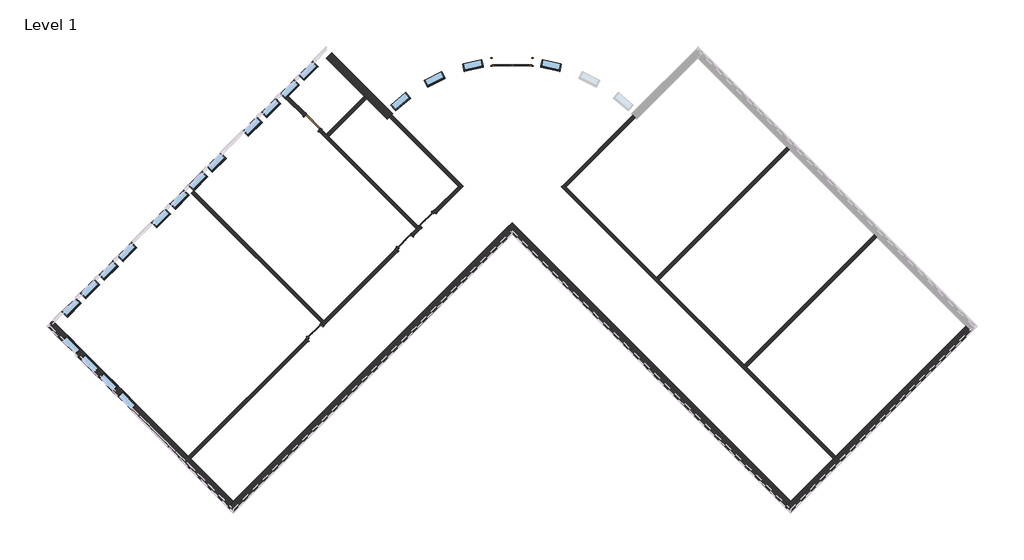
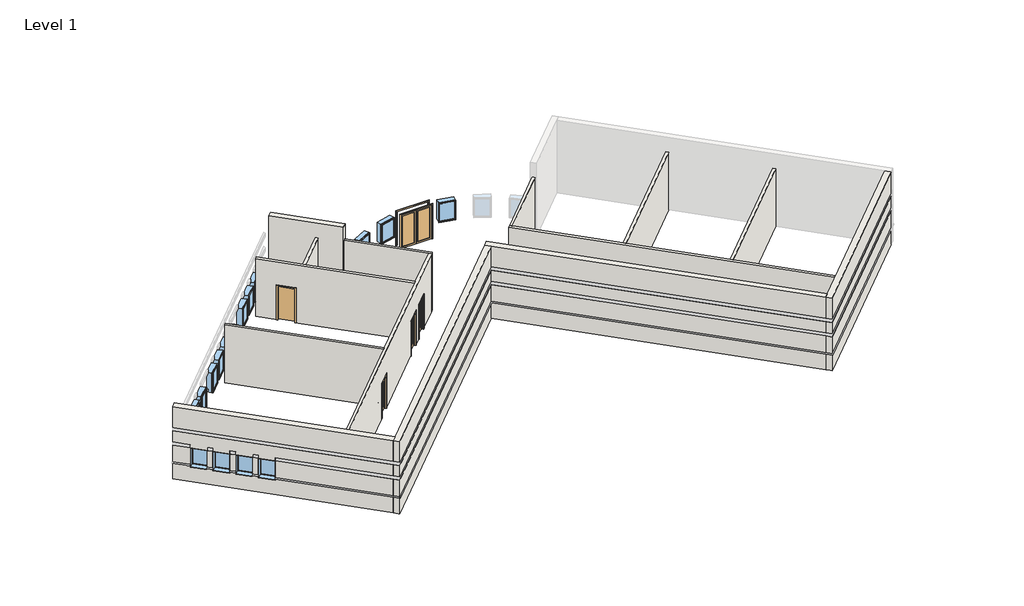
# One storey, part 1 of 2: 20 windows, 14 walls, 5 doors.
"""IFC4 building model written with IfcOpenShell, lengths in millimetres."""

from ifc_helpers import new_model, si_unit, point, frame, frame_2d, origin, origin_with_axes, place, context, project, spatial, polyline, circle_curve, trimmed, segment, composite_curve, outline, extrude, faceted_brep, transform, mapped, element, save
from ifc_brep_helpers import plane_surface, cylinder_surface, revolved_surface, advanced_brep
from components import door_9e30bd7d, door_47956b35, door_87dbb2e6, door_9d26d547, window_15c49d37, window_0e2fc6ce

model = new_model("IFC4")

# Units and contexts
model_context = context("Model", 3, world=origin())
ifc_project = project(units=[si_unit("LENGTHUNIT", "METRE", prefix="MILLI")], contexts=[model_context])

# Site, building, storey
site = spatial("IfcSite", under=ifc_project)
building = spatial("IfcBuilding", under=site)
storey = spatial("IfcBuildingStorey", under=building, Name="Level 1", Elevation=0.0)

# Doors
placement = place(None, origin())
door_shape = door_9e30bd7d(model_context)
element("IfcDoor", 1, ObjectType="Door-Double-Glass : 72\" x 84\"", at=placement, inside=storey, context=model_context, shape_type="MappedRepresentation", body=[
    mapped(door_shape, transform((-2868.7605421, 10907.9529704, 0.0), x_axis=(-0.9999999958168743, -9.146721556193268e-05, 0.0), y_axis=(9.146721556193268e-05, -0.9999999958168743, 0.0), z_axis=(0.0, 0.0, 1.0))),
])
door_2_shape = door_47956b35(model_context)
element("IfcDoor", 2, ObjectType="Door-Interior-Single-Full Glass-Wood : 36\" x 84\"", at=placement, inside=storey, context=model_context, shape_type="MappedRepresentation", body=[
    mapped(door_2_shape, transform((-12030.0168896, -1645.2399237, 0.0), x_axis=(0.7071067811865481, 0.7071067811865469, 0.0), y_axis=(-0.7071067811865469, 0.7071067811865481, 0.0), z_axis=(0.0, 0.0, 1.0))),
])
element("IfcDoor", 3, ObjectType="Door-Interior-Single-Full Glass-Wood : 36\" x 84\"", at=placement, inside=storey, context=model_context, shape_type="MappedRepresentation", body=[
    mapped(door_2_shape, transform((-7861.0507676, 2523.7261982, 0.0), x_axis=(0.7071067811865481, 0.7071067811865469, 0.0), y_axis=(-0.7071067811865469, 0.7071067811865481, 0.0), z_axis=(0.0, 0.0, 1.0))),
])
door_3_shape = door_87dbb2e6(model_context)
element("IfcDoor", 4, ObjectType="Door-Interior-Single-Full Glass-Wood : 36\" x 84\"", at=placement, inside=storey, context=model_context, shape_type="MappedRepresentation", body=[
    mapped(door_3_shape, transform((-6783.4200331, 3601.3569328, 0.0), x_axis=(-0.7071067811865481, -0.7071067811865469, 0.0), y_axis=(0.7071067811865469, -0.7071067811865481, 0.0), z_axis=(0.0, 0.0, 1.0))),
])
door_4_shape = door_9d26d547(model_context)
element("IfcDoor", 5, ObjectType="Door-Single-Panel : 36\" x 84\"", at=placement, inside=storey, context=model_context, shape_type="MappedRepresentation", body=[
    mapped(door_4_shape, transform((-12135.6526812, 8091.4849933, 0.0), x_axis=(0.7071067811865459, -0.7071067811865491, 0.0), y_axis=(0.7071067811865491, 0.7071067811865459, 0.0), z_axis=(0.0, 0.0, 1.0))),
])

# Walls
element("IfcWall", 6, ObjectType="Exterior - Split Face and CMU on Mtl. Stud", at=placement, inside=storey, context=model_context, shape_type="Brep", body=[
    faceted_brep([(18186.1821115, -1357.9895101, 4572.0), (10063.54045, -9480.6311716, 4572.0), (9814.3383427, -9729.833279, 4572.0), (10063.54045, -9979.0353863, 4572.0), (18435.3842189, -1607.1916175, 4572.0), (18186.1821115, -1357.9895101, 0.0), (12149.2049342, -7394.9666875, 0.0), (12039.1967967, -7504.974825, 0.0), (10063.54045, -9480.6311716, 0.0), (9814.3383427, -9729.833279, 0.0), (9814.3383427, -9729.833279, 1016.0), (9879.4451996, -9664.7264221, 1016.0), (9879.4451996, -9664.7264221, 1085.85), (9814.3383427, -9729.833279, 1085.85), (9814.3383427, -9729.833279, 2133.6), (9879.4451996, -9664.7264221, 2133.6), (9879.4451996, -9664.7264221, 2336.8), (9814.3383427, -9729.833279, 2336.8), (9814.3383427, -9729.833279, 3048.0), (9879.4451996, -9664.7264221, 3048.0), (9879.4451996, -9664.7264221, 3251.2), (9814.3383427, -9729.833279, 3251.2), (10063.54045, -9979.0353863, 3251.2), (18435.3842189, -1607.1916175, 3251.2), (10063.54045, -9979.0353863, 0.0), (18435.3842189, -1607.1916175, 0.0), (18435.3842189, -1607.1916175, 1016.0), (10063.54045, -9979.0353863, 1016.0), (10063.54045, -9979.0353863, 1085.85), (18435.3842189, -1607.1916175, 1085.85), (18435.3842189, -1607.1916175, 2133.6), (10063.54045, -9979.0353863, 2133.6), (10063.54045, -9979.0353863, 2336.8), (18435.3842189, -1607.1916175, 2336.8), (18435.3842189, -1607.1916175, 3048.0), (10063.54045, -9979.0353863, 3048.0), (18370.277362, -1542.0847606, 0.0), (9998.4335932, -9913.9285294, 0.0), (18370.277362, -1542.0847606, 3251.2), (18370.277362, -1542.0847606, 3048.0), (18370.277362, -1542.0847606, 2336.8), (18370.277362, -1542.0847606, 2133.6), (18370.277362, -1542.0847606, 1085.85), (18370.277362, -1542.0847606, 1016.0), (10063.54045, -9848.8216726, 1085.85), (10063.54045, -9848.8216726, 1016.0), (10063.54045, -9848.8216726, 2133.6), (10063.54045, -9848.8216726, 2336.8), (10063.54045, -9848.8216726, 3048.0), (10063.54045, -9848.8216726, 3251.2)], [[[0, 1, 2, 3, 4]], [[5, 6, 7, 8, 9, 10, 11, 12, 13, 14, 15, 16, 17, 18, 19, 20, 21, 2, 1, 0]], [[4, 3, 22, 23]], [[24, 25, 26, 27]], [[28, 29, 30, 31]], [[32, 33, 34, 35]], [[9, 8, 7, 6, 5, 36, 37]], [[5, 0, 4, 23, 38, 39, 34, 33, 40, 41, 30, 29, 42, 43, 26, 25, 36]], [[25, 24, 37, 36]], [[3, 2, 21, 22]], [[9, 37, 24, 27, 10]], [[13, 28, 31, 14]], [[17, 32, 35, 18]], [[12, 44, 42, 29, 28, 13]], [[43, 45, 11, 10, 27, 26]], [[44, 45, 43, 42]], [[45, 44, 12, 11]], [[41, 46, 15, 14, 31, 30]], [[16, 47, 40, 33, 32, 17]], [[47, 46, 41, 40]], [[46, 47, 16, 15]], [[39, 48, 19, 18, 35, 34]], [[20, 49, 38, 23, 22, 21]], [[49, 48, 39, 38]], [[48, 49, 20, 19]]]),
])
element("IfcWall", 7, ObjectType="Exterior - Split Face and CMU on Mtl. Stud", at=placement, inside=storey, context=model_context, shape_type="Brep", body=[
    faceted_brep([(10063.54045, -9480.6311716, 4572.0), (-2868.0283643, 3450.9376427, 4572.0), (-3117.2304717, 3201.7355354, 4572.0), (-2868.0283643, 2952.533428, 4572.0), (9814.3383427, -9729.833279, 4572.0), (10063.54045, -9480.6311716, 0.0), (-2868.0283643, 3450.9376427, 0.0), (-3117.2304717, 3201.7355354, 0.0), (-2868.0283643, 2952.533428, 0.0), (9814.3383427, -9729.833279, 0.0), (9814.3383427, -9729.833279, 1016.0), (-2868.0283643, 2952.533428, 1016.0), (-2933.1352212, 3017.6402849, 1016.0), (-2933.1352212, 3017.6402849, 1085.85), (-2868.0283643, 2952.533428, 1085.85), (9814.3383427, -9729.833279, 1085.85), (9814.3383427, -9729.833279, 2133.6), (-2868.0283643, 2952.533428, 2133.6), (-2933.1352212, 3017.6402849, 2133.6), (-2933.1352212, 3017.6402849, 2336.8), (-2868.0283643, 2952.533428, 2336.8), (9814.3383427, -9729.833279, 2336.8), (9814.3383427, -9729.833279, 3048.0), (-2868.0283643, 2952.533428, 3048.0), (-2933.1352212, 3017.6402849, 3048.0), (-2933.1352212, 3017.6402849, 3251.2), (-2868.0283643, 2952.533428, 3251.2), (9814.3383427, -9729.833279, 3251.2), (9879.4451996, -9664.7264221, 0.0), (-3052.1236148, 3266.8423923, 0.0), (9879.4451996, -9664.7264221, 3251.2), (9879.4451996, -9664.7264221, 3048.0), (9879.4451996, -9664.7264221, 2336.8), (9879.4451996, -9664.7264221, 2133.6), (9879.4451996, -9664.7264221, 1085.85), (9879.4451996, -9664.7264221, 1016.0), (-2868.0283643, 3082.7471418, 1085.85), (-2868.0283643, 3082.7471418, 1016.0), (-2868.0283643, 3082.7471418, 2133.6), (-2868.0283643, 3082.7471418, 2336.8), (-2868.0283643, 3082.7471418, 3048.0), (-2868.0283643, 3082.7471418, 3251.2)], [[[0, 1, 2, 3, 4]], [[5, 6, 1, 0]], [[4, 3, 2, 7, 8, 9, 10, 11, 12, 13, 14, 15, 16, 17, 18, 19, 20, 21, 22, 23, 24, 25, 26, 27]], [[6, 5, 28, 29]], [[5, 0, 4, 27, 30, 31, 22, 21, 32, 33, 16, 15, 34, 35, 10, 9, 28]], [[9, 8, 7, 29, 28]], [[1, 6, 29, 7, 2]], [[13, 36, 34, 15, 14]], [[35, 37, 12, 11, 10]], [[36, 37, 35, 34]], [[37, 36, 13, 12]], [[33, 38, 18, 17, 16]], [[19, 39, 32, 21, 20]], [[39, 38, 33, 32]], [[38, 39, 19, 18]], [[31, 40, 24, 23, 22]], [[25, 41, 30, 27, 26]], [[41, 40, 31, 30]], [[40, 41, 25, 24]]]),
])
element("IfcWall", 8, ObjectType="Exterior - Split Face and CMU on Mtl. Stud", at=placement, inside=storey, context=model_context, shape_type="Brep", body=[
    faceted_brep([(-3117.2304717, 3201.7355354, 4572.0), (-15799.5971786, -9480.6311716, 4572.0), (-16048.799286, -9729.833279, 4572.0), (-15799.5971786, -9979.0353863, 4572.0), (-2868.0283643, 2952.533428, 4572.0), (-3117.2304717, 3201.7355354, 0.0), (-15799.5971786, -9480.6311716, 0.0), (-16048.799286, -9729.833279, 0.0), (-16048.799286, -9729.833279, 1016.0), (-15983.6924291, -9664.7264221, 1016.0), (-15983.6924291, -9664.7264221, 1085.85), (-16048.799286, -9729.833279, 1085.85), (-16048.799286, -9729.833279, 2133.6), (-15983.6924291, -9664.7264221, 2133.6), (-15983.6924291, -9664.7264221, 2336.8), (-16048.799286, -9729.833279, 2336.8), (-16048.799286, -9729.833279, 3048.0), (-15983.6924291, -9664.7264221, 3048.0), (-15983.6924291, -9664.7264221, 3251.2), (-16048.799286, -9729.833279, 3251.2), (-15799.5971786, -9979.0353863, 3251.2), (-2868.0283643, 2952.533428, 3251.2), (-15799.5971786, -9979.0353863, 0.0), (-2868.0283643, 2952.533428, 0.0), (-2868.0283643, 2952.533428, 1016.0), (-15799.5971786, -9979.0353863, 1016.0), (-15799.5971786, -9979.0353863, 1085.85), (-2868.0283643, 2952.533428, 1085.85), (-2868.0283643, 2952.533428, 2133.6), (-15799.5971786, -9979.0353863, 2133.6), (-15799.5971786, -9979.0353863, 2336.8), (-2868.0283643, 2952.533428, 2336.8), (-2868.0283643, 2952.533428, 3048.0), (-15799.5971786, -9979.0353863, 3048.0), (-2933.1352212, 3017.6402849, 0.0), (-15864.7040355, -9913.9285294, 0.0), (-2933.1352212, 3017.6402849, 3251.2), (-2933.1352212, 3017.6402849, 3048.0), (-2933.1352212, 3017.6402849, 2336.8), (-2933.1352212, 3017.6402849, 2133.6), (-2933.1352212, 3017.6402849, 1085.85), (-2933.1352212, 3017.6402849, 1016.0), (-15799.5971786, -9848.8216726, 1085.85), (-15799.5971786, -9848.8216726, 1016.0), (-15799.5971786, -9848.8216726, 2133.6), (-15799.5971786, -9848.8216726, 2336.8), (-15799.5971786, -9848.8216726, 3048.0), (-15799.5971786, -9848.8216726, 3251.2)], [[[0, 1, 2, 3, 4]], [[5, 6, 7, 8, 9, 10, 11, 12, 13, 14, 15, 16, 17, 18, 19, 2, 1, 0]], [[4, 3, 20, 21]], [[22, 23, 24, 25]], [[26, 27, 28, 29]], [[30, 31, 32, 33]], [[7, 6, 5, 34, 35]], [[5, 0, 4, 21, 36, 37, 32, 31, 38, 39, 28, 27, 40, 41, 24, 23, 34]], [[23, 22, 35, 34]], [[3, 2, 19, 20]], [[7, 35, 22, 25, 8]], [[11, 26, 29, 12]], [[15, 30, 33, 16]], [[10, 42, 40, 27, 26, 11]], [[41, 43, 9, 8, 25, 24]], [[42, 43, 41, 40]], [[43, 42, 10, 9]], [[39, 44, 13, 12, 29, 28]], [[14, 45, 38, 31, 30, 15]], [[45, 44, 39, 38]], [[44, 45, 14, 13]], [[37, 46, 17, 16, 33, 32]], [[18, 47, 36, 21, 20, 19]], [[47, 46, 37, 36]], [[46, 47, 18, 17]]]),
])
element("IfcWall", 9, ObjectType="Exterior - Split Face and CMU on Mtl. Stud", at=placement, inside=storey, context=model_context, shape_type="Brep", body=[
    faceted_brep([(-15799.5971786, -9480.6311716, 4572.0), (-23922.2388402, -1357.9895101, 4572.0), (-24171.4409475, -1108.7874027, 4572.0), (-24420.6430549, -1357.9895101, 4572.0), (-16048.799286, -9729.833279, 4572.0), (-15799.5971786, -9480.6311716, 0.0), (-17775.2535253, -7504.974825, 0.0), (-17885.2616628, -7394.9666875, 0.0), (-23922.2388402, -1357.9895101, 0.0), (-24171.4409475, -1108.7874027, 0.0), (-24171.4409475, -1108.7874027, 1016.0), (-24106.3340906, -1173.8942596, 1016.0), (-24106.3340906, -1173.8942596, 1085.85), (-24171.4409475, -1108.7874027, 1085.85), (-24171.4409475, -1108.7874027, 2133.6), (-24106.3340906, -1173.8942596, 2133.6), (-24106.3340906, -1173.8942596, 2336.8), (-24171.4409475, -1108.7874027, 2336.8), (-24171.4409475, -1108.7874027, 3048.0), (-24106.3340906, -1173.8942596, 3048.0), (-24106.3340906, -1173.8942596, 3251.2), (-24171.4409475, -1108.7874027, 3251.2), (-20921.7107637, -4358.5175865, 2133.6), (-20921.7107637, -4358.5175865, 914.4), (-20275.132323, -5005.0960273, 914.4), (-20275.132323, -5005.0960273, 2133.6), (-21783.8153513, -3496.4129989, 2133.6), (-21783.8153513, -3496.4129989, 914.4), (-21137.2369106, -4142.9914396, 914.4), (-21137.2369106, -4142.9914396, 2133.6), (-22645.9199389, -2634.3084113, 2133.6), (-22645.9199389, -2634.3084113, 914.4), (-21999.3414982, -3280.886852, 914.4), (-21999.3414982, -3280.886852, 2133.6), (-23508.0245266, -1772.2038237, 2133.6), (-23508.0245266, -1772.2038237, 914.4), (-22861.4460859, -2418.7822644, 914.4), (-22861.4460859, -2418.7822644, 2133.6), (-24420.6430549, -1357.9895101, 3251.2), (-16048.799286, -9729.833279, 3251.2), (-24420.6430549, -1357.9895101, 0.0), (-16048.799286, -9729.833279, 0.0), (-16048.799286, -9729.833279, 1016.0), (-20524.3344303, -5254.2981346, 1016.0), (-20524.3344303, -5254.2981346, 914.4), (-21170.9128711, -4607.7196939, 914.4), (-21170.9128711, -4607.7196939, 1016.0), (-21386.439018, -4392.193547, 1016.0), (-21386.439018, -4392.193547, 914.4), (-22033.0174587, -3745.6151063, 914.4), (-22033.0174587, -3745.6151063, 1016.0), (-22248.5436056, -3530.0889594, 1016.0), (-22248.5436056, -3530.0889594, 914.4), (-22895.1220463, -2883.5105187, 914.4), (-22895.1220463, -2883.5105187, 1016.0), (-23110.6481932, -2667.9843718, 1016.0), (-23110.6481932, -2667.9843718, 914.4), (-23757.2266339, -2021.405931, 914.4), (-23757.2266339, -2021.405931, 1016.0), (-24420.6430549, -1357.9895101, 1016.0), (-21170.9128711, -4607.7196939, 2133.6), (-20524.3344303, -5254.2981346, 2133.6), (-20524.3344303, -5254.2981346, 2336.8), (-16048.799286, -9729.833279, 2336.8), (-16048.799286, -9729.833279, 3048.0), (-24420.6430549, -1357.9895101, 3048.0), (-24420.6430549, -1357.9895101, 2336.8), (-23757.2266339, -2021.405931, 2336.8), (-23757.2266339, -2021.405931, 2133.6), (-23110.6481932, -2667.9843718, 2133.6), (-23110.6481932, -2667.9843718, 2336.8), (-22895.1220463, -2883.5105187, 2336.8), (-22895.1220463, -2883.5105187, 2133.6), (-22248.5436056, -3530.0889594, 2133.6), (-22248.5436056, -3530.0889594, 2336.8), (-22033.0174587, -3745.6151063, 2336.8), (-22033.0174587, -3745.6151063, 2133.6), (-21386.439018, -4392.193547, 2133.6), (-21386.439018, -4392.193547, 2336.8), (-21170.9128711, -4607.7196939, 2336.8), (-20524.3344303, -5254.2981346, 1085.85), (-16048.799286, -9729.833279, 1085.85), (-16048.799286, -9729.833279, 2133.6), (-21170.9128711, -4607.7196939, 1085.85), (-21386.439018, -4392.193547, 1085.85), (-22033.0174587, -3745.6151063, 1085.85), (-22248.5436056, -3530.0889594, 1085.85), (-22895.1220463, -2883.5105187, 1085.85), (-23110.6481932, -2667.9843718, 1085.85), (-23757.2266339, -2021.405931, 1085.85), (-24420.6430549, -1357.9895101, 2133.6), (-24420.6430549, -1357.9895101, 1085.85), (-15983.6924291, -9664.7264221, 0.0), (-24355.536198, -1292.8826532, 0.0), (-15983.6924291, -9664.7264221, 3251.2), (-15983.6924291, -9664.7264221, 3048.0), (-15983.6924291, -9664.7264221, 2336.8), (-15983.6924291, -9664.7264221, 2133.6), (-15983.6924291, -9664.7264221, 1085.85), (-15983.6924291, -9664.7264221, 1016.0), (-21105.8060142, -4542.612837, 2133.6), (-21105.8060142, -4542.612837, 1085.85), (-21105.8060142, -4542.612837, 1016.0), (-20459.2275735, -5189.1912777, 1016.0), (-20459.2275735, -5189.1912777, 1085.85), (-20459.2275735, -5189.1912777, 2133.6), (-21967.9106018, -3680.5082494, 2133.6), (-21967.9106018, -3680.5082494, 1085.85), (-21967.9106018, -3680.5082494, 1016.0), (-21321.3321611, -4327.0866901, 1016.0), (-21321.3321611, -4327.0866901, 1085.85), (-21321.3321611, -4327.0866901, 2133.6), (-22830.0151894, -2818.4036618, 2133.6), (-22830.0151894, -2818.4036618, 1085.85), (-22830.0151894, -2818.4036618, 1016.0), (-22183.4367487, -3464.9821025, 1016.0), (-22183.4367487, -3464.9821025, 1085.85), (-22183.4367487, -3464.9821025, 2133.6), (-23692.119777, -1956.2990742, 2133.6), (-23692.119777, -1956.2990742, 1085.85), (-23692.119777, -1956.2990742, 1016.0), (-23045.5413363, -2602.8775149, 1016.0), (-23045.5413363, -2602.8775149, 1085.85), (-23045.5413363, -2602.8775149, 2133.6), (-24290.4293411, -1357.9895101, 1085.85), (-24290.4293411, -1357.9895101, 1016.0), (-20459.2275735, -5189.1912777, 2133.6), (-20459.2275735, -5189.1912777, 2336.8), (-21105.8060142, -4542.612837, 2133.6), (-21105.8060142, -4542.612837, 2336.8), (-21321.3321611, -4327.0866901, 2336.8), (-21321.3321611, -4327.0866901, 2133.6), (-21967.9106018, -3680.5082494, 2133.6), (-21967.9106018, -3680.5082494, 2336.8), (-22183.4367487, -3464.9821025, 2336.8), (-22183.4367487, -3464.9821025, 2133.6), (-22830.0151894, -2818.4036618, 2133.6), (-22830.0151894, -2818.4036618, 2336.8), (-23045.5413363, -2602.8775149, 2336.8), (-23045.5413363, -2602.8775149, 2133.6), (-23692.119777, -1956.2990742, 2133.6), (-23692.119777, -1956.2990742, 2336.8), (-24290.4293411, -1357.9895101, 2133.6), (-24290.4293411, -1357.9895101, 2336.8), (-24290.4293411, -1357.9895101, 3048.0), (-24290.4293411, -1357.9895101, 3251.2)], [[[0, 1, 2, 3, 4]], [[5, 6, 7, 8, 9, 10, 11, 12, 13, 14, 15, 16, 17, 18, 19, 20, 21, 2, 1, 0], [22, 23, 24, 25], [26, 27, 28, 29], [30, 31, 32, 33], [34, 35, 36, 37]], [[4, 3, 38, 39]], [[40, 41, 42, 43, 44, 45, 46, 47, 48, 49, 50, 51, 52, 53, 54, 55, 56, 57, 58, 59]], [[60, 61, 62, 63, 64, 65, 66, 67, 68, 69, 70, 71, 72, 73, 74, 75, 76, 77, 78, 79]], [[61, 80, 81, 82]], [[83, 60, 77, 84]], [[85, 76, 73, 86]], [[87, 72, 69, 88]], [[89, 68, 90, 91]], [[9, 8, 7, 6, 5, 92, 93]], [[5, 0, 4, 39, 94, 95, 64, 63, 96, 97, 82, 81, 98, 99, 42, 41, 92]], [[41, 40, 93, 92]], [[3, 2, 21, 38]], [[9, 93, 40, 59, 10]], [[13, 91, 90, 14]], [[17, 66, 65, 18]], [[23, 22, 100, 60, 83, 101, 102, 46, 45]], [[24, 23, 45, 44]], [[25, 24, 44, 43, 103, 104, 80, 61, 105]], [[22, 25, 105, 61, 60, 100]], [[27, 26, 106, 76, 85, 107, 108, 50, 49]], [[28, 27, 49, 48]], [[29, 28, 48, 47, 109, 110, 84, 77, 111]], [[26, 29, 111, 77, 76, 106]], [[31, 30, 112, 72, 87, 113, 114, 54, 53]], [[32, 31, 53, 52]], [[33, 32, 52, 51, 115, 116, 86, 73, 117]], [[30, 33, 117, 73, 72, 112]], [[35, 34, 118, 68, 89, 119, 120, 58, 57]], [[36, 35, 57, 56]], [[37, 36, 56, 55, 121, 122, 88, 69, 123]], [[34, 37, 123, 69, 68, 118]], [[104, 98, 81, 80]], [[99, 103, 43, 42]], [[98, 104, 103, 99]], [[110, 101, 83, 84]], [[102, 109, 47, 46]], [[101, 110, 109, 102]], [[116, 107, 85, 86]], [[108, 115, 51, 50]], [[107, 116, 115, 108]], [[122, 113, 87, 88]], [[114, 121, 55, 54]], [[113, 122, 121, 114]], [[124, 119, 89, 91, 13, 12]], [[120, 125, 11, 10, 59, 58]], [[119, 124, 125, 120]], [[125, 124, 12, 11]], [[126, 61, 82, 97]], [[62, 127, 96, 63]], [[61, 126, 127, 62]], [[127, 126, 97, 96]], [[128, 60, 79, 129]], [[130, 78, 77, 131]], [[60, 128, 131, 77]], [[128, 129, 130, 131]], [[129, 79, 78, 130]], [[132, 76, 75, 133]], [[134, 74, 73, 135]], [[76, 132, 135, 73]], [[132, 133, 134, 135]], [[133, 75, 74, 134]], [[136, 72, 71, 137]], [[138, 70, 69, 139]], [[72, 136, 139, 69]], [[136, 137, 138, 139]], [[137, 71, 70, 138]], [[140, 68, 67, 141]], [[68, 140, 142, 15, 14, 90]], [[140, 141, 143, 142]], [[141, 67, 66, 17, 16, 143]], [[142, 143, 16, 15]], [[95, 144, 19, 18, 65, 64]], [[20, 145, 94, 39, 38, 21]], [[145, 144, 95, 94]], [[144, 145, 20, 19]]]),
])
element("IfcWall", 10, ObjectType="Exterior - Split Face and CMU on Mtl. Stud", at=placement, inside=storey, context=model_context, shape_type="AdvancedBrep", body=[
    advanced_brep(
    [(-11489.0742405, 11075.1750895, 4572.0), (-8658.0122729, 8244.1131219, 4572.0), (-8413.2817722, 8497.7868359, 4572.0), (-8662.486224, 8746.9912878, 4572.0), (-11239.8721332, 11324.3771969, 4572.0), (-11489.0742405, 11075.1750895, 0.0), (-9728.9440408, 9315.0448898, 0.0), (-9618.9359033, 9205.0367523, 0.0), (-8658.0122729, 8244.1131219, 0.0), (-8413.2817722, 8497.7868359, 0.0), (-8662.486224, 8746.9912878, 0.0), (-11239.8721332, 11324.3771969, 0.0), (-11239.8721332, 11324.3771969, 1016.0), (-8662.486224, 8746.9912878, 1016.0), (-8597.3787742, 8681.8838379, 1016.0), (-8597.3787742, 8681.8838379, 1085.85), (-8662.486224, 8746.9912878, 1085.85), (-11239.8721332, 11324.3771969, 1085.85), (-11239.8721332, 11324.3771969, 2133.6), (-8662.486224, 8746.9912878, 2133.6), (-8597.3787742, 8681.8838379, 2133.6), (-8597.3787742, 8681.8838379, 2336.8), (-8662.486224, 8746.9912878, 2336.8), (-11239.8721332, 11324.3771969, 2336.8), (-11239.8721332, 11324.3771969, 3048.0), (-8662.486224, 8746.9912878, 3048.0), (-8597.3787742, 8681.8838379, 3048.0), (-8597.3787742, 8681.8838379, 3251.2), (-8662.486224, 8746.9912878, 3251.2), (-11239.8721332, 11324.3771969, 3251.2), (-11304.9789901, 11259.27034, 0.0), (-8478.2967797, 8432.5881297, 0.0), (-11304.9789901, 11259.27034, 3251.2), (-11304.9789901, 11259.27034, 3048.0), (-11304.9789901, 11259.27034, 2336.8), (-11304.9789901, 11259.27034, 2133.6), (-11304.9789901, 11259.27034, 1085.85), (-11304.9789901, 11259.27034, 1016.0), (-8662.3967205, 8616.6880705, 1085.85), (-8662.3967205, 8616.6880705, 1016.0), (-8662.3967205, 8616.6880705, 2336.8), (-8662.3967205, 8616.6880705, 2133.6), (-8662.3967205, 8616.6880705, 3251.2), (-8662.3967205, 8616.6880705, 3048.0)],
    [
        (0, 1),
        (1, 2, circle_curve(frame((-2868.0283643, 2903.1420194, 4572.0), z_axis=(0.0, 0.0, -1.0), x_axis=(1.0, 0.0, 0.0)), 7877.175)),
        (2, 3),
        (3, 4),
        (4, 0),
        (5, 6),
        (6, 7),
        (7, 8),
        (8, 1),
        (0, 5),
        (2, 9),
        (9, 10),
        (10, 11),
        (11, 12),
        (12, 13),
        (13, 14),
        (14, 15),
        (15, 16),
        (16, 17),
        (17, 18),
        (18, 19),
        (19, 20),
        (20, 21),
        (21, 22),
        (22, 23),
        (23, 24),
        (24, 25),
        (25, 26),
        (26, 27),
        (27, 28),
        (28, 29),
        (29, 4),
        (5, 30),
        (30, 31),
        (31, 8, circle_curve(frame((-2868.0283643, 2903.1420194, 0.0), z_axis=(0.0, 0.0, 1.0), x_axis=(1.0, 0.0, 0.0)), 7877.175)),
        (29, 32),
        (32, 33),
        (33, 24),
        (23, 34),
        (34, 35),
        (35, 18),
        (17, 36),
        (36, 37),
        (37, 12),
        (11, 30),
        (9, 31, circle_curve(frame((-2868.0283643, 2903.1420194, 0.0), z_axis=(0.0, 0.0, 1.0), x_axis=(1.0, 0.0, 0.0)), 7877.175)),
        (38, 39),
        (39, 37),
        (36, 38),
        (15, 38, circle_curve(frame((-2868.0283643, 2903.1420194, 1085.85), z_axis=(0.0, 0.0, 1.0), x_axis=(-0.7040995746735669, 0.7101012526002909, 0.0)), 8137.525)),
        (39, 14, circle_curve(frame((-2868.0283643, 2903.1420194, 1016.0), z_axis=(0.0, 0.0, -1.0), x_axis=(-0.7040995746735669, 0.7101012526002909, 0.0)), 8137.525)),
        (40, 41),
        (41, 35),
        (34, 40),
        (41, 20, circle_curve(frame((-2868.0283643, 2903.1420194, 2133.6), z_axis=(0.0, 0.0, -1.0), x_axis=(-0.7120553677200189, 0.7021233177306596, 0.0)), 8137.525)),
        (40, 21, circle_curve(frame((-2868.0283643, 2903.1420194, 2336.8), z_axis=(0.0, 0.0, -1.0), x_axis=(-0.7120553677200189, 0.7021233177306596, 0.0)), 8137.525)),
        (42, 43),
        (43, 33),
        (32, 42),
        (43, 26, circle_curve(frame((-2868.0283643, 2903.1420194, 3048.0), z_axis=(0.0, 0.0, -1.0), x_axis=(-0.7120553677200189, 0.7021233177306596, 0.0)), 8137.525)),
        (42, 27, circle_curve(frame((-2868.0283643, 2903.1420194, 3251.2), z_axis=(0.0, 0.0, -1.0), x_axis=(-0.7120553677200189, 0.7021233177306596, 0.0)), 8137.525)),
    ],
    [
        plane_surface(frame((-8786.2632499, 8372.3640989, 4572.0), z_axis=(0.0, 0.0, 1.0), x_axis=(0.7071067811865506, 0.7071067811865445, 0.0))),
        plane_surface(frame((-11738.2763479, 11324.3771969, 0.0), z_axis=(-0.7071067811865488, -0.7071067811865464, 0.0), x_axis=(0.7071067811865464, -0.7071067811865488, 0.0))),
        plane_surface(frame((-11489.0742405, 11573.5793042, 0.0), z_axis=(0.7071067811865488, 0.7071067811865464, 0.0), x_axis=(-0.7071067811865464, 0.7071067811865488, 0.0))),
        plane_surface(frame((-11613.6752942, 11199.7761432, 0.0), z_axis=(0.0, 0.0, -1.0000000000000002), x_axis=(0.7071067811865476, 0.7071067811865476, 0.0))),
        plane_surface(frame((-24171.4409475, -1607.1916175, 0.0), z_axis=(-0.7071067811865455, 0.7071067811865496, 0.0), x_axis=(0.7071067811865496, 0.7071067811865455, 0.0))),
        plane_surface(frame((0.0, 0.0, 0.0), z_axis=(0.0, 0.0, -1.0), x_axis=(1.0, 0.0, 0.0))),
        revolved_surface(polyline([(5009.146635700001, 2903.1420194, 0.0), (5009.146635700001, 2903.1420194, 4572.0)]), (-2868.0283643, 2903.1420194, 0.0), (0.0, 0.0, -1.0)),
        plane_surface(frame((-11489.0742405, 11443.3655905, 1016.0), z_axis=(0.7071067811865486, 0.7071067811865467, 0.0), x_axis=(0.7071067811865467, -0.7071067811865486, 0.0))),
        plane_surface(frame((-2868.0283643, 2903.1420194, 1085.85), z_axis=(0.0, 0.0, -1.0), x_axis=(-0.7040995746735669, 0.7101012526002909, 0.0))),
        plane_surface(frame((-2868.0283643, 2903.1420194, 1016.0), z_axis=(0.0, 0.0, 1.0), x_axis=(-0.7040995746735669, 0.7101012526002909, 0.0))),
        cylinder_surface(frame((-2868.0283643, 2903.1420194, 1016.0), z_axis=(0.0, 0.0, -1.0), x_axis=(-0.7040995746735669, 0.7101012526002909, 0.0)), 8137.525),
        plane_surface(frame((-11489.0742405, 11443.3655905, 2133.6), z_axis=(0.7071067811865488, 0.7071067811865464, 0.0), x_axis=(0.7071067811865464, -0.7071067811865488, 0.0))),
        plane_surface(frame((-2868.0283643, 2903.1420194, 2133.6), z_axis=(0.0, 0.0, 1.0), x_axis=(-0.7120553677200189, 0.7021233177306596, 0.0))),
        cylinder_surface(frame((-2868.0283643, 2903.1420194, 2133.6), z_axis=(0.0, 0.0, -1.0), x_axis=(-0.7120553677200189, 0.7021233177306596, 0.0)), 8137.525),
        plane_surface(frame((-2868.0283643, 2903.1420194, 2336.8), z_axis=(0.0, 0.0, -1.0), x_axis=(-0.7120553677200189, 0.7021233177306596, 0.0))),
        plane_surface(frame((-11489.0742405, 11443.3655905, 3048.0), z_axis=(0.7071067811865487, 0.7071067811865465, 0.0), x_axis=(0.7071067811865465, -0.7071067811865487, 0.0))),
        plane_surface(frame((-2868.0283643, 2903.1420194, 3048.0), z_axis=(0.0, 0.0, 1.0), x_axis=(-0.7120553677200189, 0.7021233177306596, 0.0))),
        cylinder_surface(frame((-2868.0283643, 2903.1420194, 3048.0), z_axis=(0.0, 0.0, -1.0), x_axis=(-0.7120553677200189, 0.7021233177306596, 0.0)), 8137.525),
        plane_surface(frame((-2868.0283643, 2903.1420194, 3251.2), z_axis=(0.0, 0.0, -1.0), x_axis=(-0.7120553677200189, 0.7021233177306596, 0.0))),
    ],
    [
        (0, [[1, 2, 3, 4, 5]]),
        (1, [[6, 7, 8, 9, -1, 10]]),
        (2, [[-4, -3, 11, 12, 13, 14, 15, 16, 17, 18, 19, 20, 21, 22, 23, 24, 25, 26, 27, 28, 29, 30, 31, 32]]),
        (3, [[-8, -7, -6, 33, 34, 35]]),
        (4, [[-10, -5, -32, 36, 37, 38, -26, 39, 40, 41, -20, 42, 43, 44, -14, 45, -33]]),
        (5, [[-13, -12, 46, -34, -45]]),
        (6, [[-9, -35, -46, -11, -2]]),
        (7, [[47, 48, -43, 49]]),
        (8, [[50, -49, -42, -19, -18]]),
        (9, [[-48, 51, -16, -15, -44]]),
        (10, [[-47, -50, -17, -51]]),
        (11, [[52, 53, -40, 54]]),
        (12, [[-53, 55, -22, -21, -41]]),
        (13, [[-52, 56, -23, -55]]),
        (14, [[-56, -54, -39, -25, -24]]),
        (15, [[57, 58, -37, 59]]),
        (16, [[-58, 60, -28, -27, -38]]),
        (17, [[-57, 61, -29, -60]]),
        (18, [[-61, -59, -36, -31, -30]]),
    ],
),
])
element("IfcWall", 11, ObjectType="Interior - 6 1/8\" Partition (2-hr)", at=placement, inside=storey, context=model_context, shape_type="Brep", body=[
    faceted_brep([(-17775.2535253, -7504.974825, 0.0), (-17885.2616628, -7394.9666875, 0.0), (-12424.0256269, -1933.7306516, 0.0), (-12314.0174894, -2043.7387891, 0.0), (-5348.5885532, 5141.7064221, 0.0), (-5238.5804157, 5031.6982846, 0.0), (-6384.9211677, 3885.3575326, 0.0), (-6494.9293052, 3995.3656701, 0.0), (-11631.5180242, -1361.2393239, 0.0), (-11741.5261617, -1251.2311864, 0.0), (-11706.7276692, -1216.4326939, 0.0), (-11596.7195317, -1106.4245564, 0.0), (-8255.0595049, 2235.2354703, 0.0), (-8145.0513674, 2125.2273329, 0.0), (-7462.5519022, 2807.7267981, 0.0), (-7572.5600397, 2917.7349356, 0.0), (-7322.2354004, 3168.0595749, 0.0), (-7212.2272629, 3278.0677124, 0.0), (-7177.4287704, 3312.8662049, 0.0), (-7067.4206329, 3202.8580674, 0.0), (-17775.2535253, -7504.974825, 3657.6), (-5238.5804157, 5031.6982846, 3657.6), (-5348.5885532, 5141.7064221, 3657.6), (-7212.2272629, 3278.0677124, 3657.6), (-7322.2354004, 3168.0595749, 3657.6), (-11596.7195317, -1106.4245564, 3657.6), (-11706.7276692, -1216.4326939, 3657.6), (-17885.2616628, -7394.9666875, 3657.6), (-12314.0174894, -2043.7387891, 2159.0), (-11631.5180242, -1361.2393239, 2159.0), (-8145.0513674, 2125.2273329, 2159.0), (-7462.5519022, 2807.7267981, 2159.0), (-7067.4206329, 3202.8580674, 2159.0), (-6384.9211677, 3885.3575326, 2159.0), (-6494.9293052, 3995.3656701, 2159.0), (-7177.4287704, 3312.8662049, 2159.0), (-7572.5600397, 2917.7349356, 2159.0), (-8255.0595049, 2235.2354703, 2159.0), (-11741.5261617, -1251.2311864, 2159.0), (-12424.0256269, -1933.7306516, 2159.0)], [[[0, 1, 2, 3]], [[4, 5, 6, 7]], [[8, 9, 10, 11, 12, 13]], [[14, 15, 16, 17, 18, 19]], [[20, 21, 22, 23, 24, 25, 26, 27]], [[21, 20, 0, 3, 28, 29, 8, 13, 30, 31, 14, 19, 32, 33, 6, 5]], [[27, 26, 25, 24, 23, 22, 4, 7, 34, 35, 18, 17, 16, 15, 36, 37, 12, 11, 10, 9, 38, 39, 2, 1]], [[0, 20, 27, 1]], [[21, 5, 4, 22]], [[29, 38, 9, 8]], [[38, 29, 28, 39]], [[39, 28, 3, 2]], [[31, 36, 15, 14]], [[36, 31, 30, 37]], [[37, 30, 13, 12]], [[35, 32, 19, 18]], [[32, 35, 34, 33]], [[33, 34, 7, 6]]]),
])
element("IfcWall", 12, ObjectType="Interior - 6 1/8\" Partition (2-hr)", at=placement, inside=storey, context=model_context, shape_type="Brep", body=[
    faceted_brep([(-7322.2354004, 3168.0595749, 0.0), (-11867.3675296, 7713.1917042, 0.0), (-11757.3593921, 7823.1998417, 0.0), (-11489.0742405, 7554.9146901, 0.0), (-11379.066103, 7444.9065526, 0.0), (-7212.2272629, 3278.0677124, 0.0), (-12513.9459703, 8359.7701449, 0.0), (-13359.2125777, 9205.0367523, 0.0), (-13249.2044403, 9315.0448898, 0.0), (-12403.9378329, 8469.7782824, 0.0), (-7212.2272629, 3278.0677124, 3657.6), (-11379.066103, 7444.9065526, 3657.6), (-11489.0742405, 7554.9146901, 3657.6), (-13249.2044403, 9315.0448898, 3657.6), (-13359.2125777, 9205.0367523, 3657.6), (-7322.2354004, 3168.0595749, 3657.6), (-11757.3593921, 7823.1998417, 2133.6), (-12403.9378329, 8469.7782824, 2133.6), (-11867.3675296, 7713.1917042, 2133.6), (-12513.9459703, 8359.7701449, 2133.6)], [[[0, 1, 2, 3, 4, 5]], [[6, 7, 8, 9]], [[10, 11, 12, 13, 14, 15]], [[5, 4, 3, 2, 16, 17, 9, 8, 13, 12, 11, 10]], [[18, 1, 0, 15, 14, 7, 6, 19]], [[13, 8, 7, 14]], [[5, 10, 15, 0]], [[16, 2, 1, 18]], [[17, 16, 18, 19]], [[9, 17, 19, 6]]]),
])
element("IfcWall", 13, ObjectType="Interior - 6 1/8\" Partition (2-hr)", at=placement, inside=storey, context=model_context, shape_type="AdvancedBrep", body=[
    advanced_brep(
    [(-5128.5722782, 5141.7064221, 0.0), (-8449.0111375, 8462.1452813, 0.0), (-8449.0111375, 8462.1452813, 3657.6), (-5128.5722782, 5141.7064221, 3657.6), (-5238.5804157, 5031.6982846, 0.0), (-5238.5804157, 5031.6982846, 3657.6), (-5348.5885532, 5141.7064221, 3657.6), (-8557.7157352, 8350.8336041, 3657.6), (-8557.7157352, 8350.8336041, 0.0), (-5348.5885532, 5141.7064221, 0.0)],
    [
        (0, 1),
        (1, 2),
        (2, 3),
        (3, 0),
        (4, 5),
        (5, 6),
        (6, 7),
        (7, 8),
        (8, 9),
        (9, 4),
        (0, 4),
        (8, 1, circle_curve(frame((-2868.0283643, 2903.1420194, 0.0), z_axis=(0.0, 0.0, -1.0), x_axis=(1.0, 0.0, 0.0)), 7877.175)),
        (2, 7, circle_curve(frame((-2868.0283643, 2903.1420194, 3657.6), z_axis=(0.0, 0.0, 1.0), x_axis=(1.0, 0.0, 0.0)), 7877.175)),
        (5, 3),
    ],
    [
        plane_surface(frame((-5183.576347, 5196.7104908, 0.0), z_axis=(0.7071067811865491, 0.7071067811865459, 0.0), x_axis=(-0.7071067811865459, 0.7071067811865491, 0.0))),
        plane_surface(frame((-5293.5844845, 5086.7023533, 0.0), z_axis=(-0.7071067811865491, -0.7071067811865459, 0.0), x_axis=(0.7071067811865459, -0.7071067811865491, 0.0))),
        plane_surface(frame((-5183.576347, 5196.7104908, 0.0), z_axis=(0.0, 0.0, -1.0), x_axis=(-0.707106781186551, -0.7071067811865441, 0.0))),
        plane_surface(frame((-8573.2406241, 8586.374768, 3657.6), z_axis=(0.0, 0.0, 1.0), x_axis=(-0.707106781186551, -0.7071067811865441, 0.0))),
        plane_surface(frame((-17899.854579, -7629.5758786, 0.0), z_axis=(0.7071067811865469, -0.7071067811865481, 0.0), x_axis=(0.7071067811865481, 0.7071067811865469, 0.0))),
        cylinder_surface(frame((-2868.0283643, 2903.1420194, 0.0), z_axis=(0.0, 0.0, -1.0), x_axis=(1.0, 0.0, 0.0)), 7877.175),
    ],
    [
        (0, [[1, 2, 3, 4]]),
        (1, [[5, 6, 7, 8, 9, 10]]),
        (2, [[-1, 11, -10, -9, 12]]),
        (3, [[-3, 13, -7, -6, 14]]),
        (4, [[-4, -14, -5, -11]]),
        (5, [[-2, -12, -8, -13]]),
    ],
),
])
element("IfcWall", 14, ObjectType="Interior - 6 1/8\" Partition (2-hr)", at=placement, inside=storey, context=model_context, shape_type="SweptSolid", body=[
    extrude(outline(polyline([(-11489.0742405, 7554.9146901), (-9728.9440408, 9315.0448898), (-9618.9359033, 9205.0367523), (-11379.066103, 7444.9065526), (-11489.0742405, 7554.9146901)])), origin_with_axes(), (0.0, 0.0, 1.0), 3657.6),
])
element("IfcWall", 15, ObjectType="Interior - 6 1/8\" Partition (2-hr)", at=placement, inside=storey, context=model_context, shape_type="SweptSolid", body=[
    extrude(outline(polyline([(-17633.6967091, 4930.552621), (-11596.7195317, -1106.4245564), (-11706.7276692, -1216.4326939), (-17743.7048466, 4820.5444835), (-17633.6967091, 4930.552621)])), origin_with_axes(), (0.0, 0.0, 1.0), 3657.6),
])
element("IfcWall", 16, ObjectType="Interior - 6 1/8\" Partition (2-hr)", at=placement, inside=storey, context=model_context, shape_type="Brep", body=[
    faceted_brep([(12149.2049342, -7394.9666875, 0.0), (8018.2871185, -3264.0488718, 0.0), (7908.278981, -3154.0407343, 0.0), (3956.9662877, 797.271959, 0.0), (3846.9581502, 907.2800964, 0.0), (-353.5566504, 5107.7948971, 0.0), (-463.5647879, 5217.8030346, 0.0), (-463.5647879, 5217.8030346, 3657.6), (-353.5566504, 5107.7948971, 3657.6), (3846.9581502, 907.2800964, 3657.6), (3956.9662877, 797.271959, 3657.6), (7908.278981, -3154.0407343, 3657.6), (8018.2871185, -3264.0488718, 3657.6), (12149.2049342, -7394.9666875, 3657.6), (12039.1967967, -7504.974825, 0.0), (12039.1967967, -7504.974825, 3657.6), (-573.5729254, 5107.7948971, 3657.6), (-573.5729254, 5107.7948971, 0.0)], [[[0, 1, 2, 3, 4, 5, 6, 7, 8, 9, 10, 11, 12, 13]], [[14, 15, 16, 17]], [[6, 5, 4, 3, 2, 1, 0, 14, 17]], [[13, 12, 11, 10, 9, 8, 7, 16, 15]], [[7, 6, 17, 16]], [[0, 13, 15, 14]]]),
])
element("IfcWall", 17, ObjectType="Interior - 6 1/8\" Partition (2-hr)", at=placement, inside=storey, context=model_context, shape_type="SweptSolid", body=[
    extrude(outline(polyline([(3846.9581502, 907.2800964), (9883.9353276, 6944.2572738), (9993.9434651, 6834.2491364), (3956.9662877, 797.271959), (3846.9581502, 907.2800964)])), origin_with_axes(), (0.0, 0.0, 1.0), 3657.6),
])
element("IfcWall", 18, ObjectType="Interior - 6 1/8\" Partition (2-hr)", at=placement, inside=storey, context=model_context, shape_type="SweptSolid", body=[
    extrude(outline(polyline([(7908.278981, -3154.0407343), (13945.2561584, 2882.9364431), (14055.2642958, 2772.9283056), (8018.2871185, -3264.0488718), (7908.278981, -3154.0407343)])), origin_with_axes(), (0.0, 0.0, 1.0), 3657.6),
])
element("IfcWall", 19, ObjectType="Interior - 6 1/8\" Partition (2-hr)", at=placement, inside=storey, context=model_context, shape_type="SweptSolid", body=[
    extrude(outline(composite_curve([segment(polyline([(-463.5647879, 5217.8030346), (2746.6957919, 8428.0636143)]), True, "CONTINUOUS"), segment(trimmed(circle_curve(frame_2d((-2868.0283643, 2903.1420194)), 7877.175), [point((2746.6957919, 8428.0636143))], [point((2854.7303749, 8316.0819224))], False, "CARTESIAN"), True, "CONTINUOUS"), segment(polyline([(2854.7303749, 8316.0819224), (-353.5566504, 5107.7948971), (-463.5647879, 5217.8030346)]), True, "CONTINUOUS")], self_intersect=False)), origin_with_axes(), (0.0, 0.0, 1.0), 3657.6),
])

# Windows
window_shape = window_15c49d37(model_context)
element("IfcWindow", 20, ObjectType="Fixed : 36\" x 48\"", at=placement, inside=storey, context=model_context, shape_type="MappedRepresentation", body=[
    mapped(window_shape, transform((-23336.2771283, -522.8256908, 0.0), x_axis=(-0.7071067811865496, -0.7071067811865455, 0.0), y_axis=(0.7071067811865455, -0.7071067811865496, 0.0), z_axis=(0.0, 0.0, 1.0))),
])
element("IfcWindow", 21, ObjectType="Fixed : 36\" x 48\"", at=placement, inside=storey, context=model_context, shape_type="MappedRepresentation", body=[
    mapped(window_shape, transform((-8066.2237793, 9037.6928325, 0.0), x_axis=(-0.7659856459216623, -0.6428576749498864, 0.0), y_axis=(0.6428576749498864, -0.7659856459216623, 0.0), z_axis=(0.0, 0.0, 1.0))),
])
element("IfcWindow", 22, ObjectType="Fixed : 36\" x 48\"", at=placement, inside=storey, context=model_context, shape_type="MappedRepresentation", body=[
    mapped(window_shape, transform((-22474.1725406, 339.2788968, 0.0), x_axis=(-0.7071067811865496, -0.7071067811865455, 0.0), y_axis=(0.7071067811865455, -0.7071067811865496, 0.0), z_axis=(0.0, 0.0, 1.0))),
])
element("IfcWindow", 23, ObjectType="Fixed : 36\" x 48\"", at=placement, inside=storey, context=model_context, shape_type="MappedRepresentation", body=[
    mapped(window_shape, transform((-21612.067953, 1201.3834844, 0.0), x_axis=(-0.7071067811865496, -0.7071067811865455, 0.0), y_axis=(0.7071067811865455, -0.7071067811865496, 0.0), z_axis=(0.0, 0.0, 1.0))),
])
element("IfcWindow", 24, ObjectType="Fixed : 36\" x 48\"", at=placement, inside=storey, context=model_context, shape_type="MappedRepresentation", body=[
    mapped(window_shape, transform((-20749.9633654, 2063.488072, 0.0), x_axis=(-0.7071067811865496, -0.7071067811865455, 0.0), y_axis=(0.7071067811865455, -0.7071067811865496, 0.0), z_axis=(0.0, 0.0, 1.0))),
])
element("IfcWindow", 25, ObjectType="Fixed : 36\" x 48\"", at=placement, inside=storey, context=model_context, shape_type="MappedRepresentation", body=[
    mapped(window_shape, transform((-4714.6266038, 10728.998151, 0.0), x_axis=(-0.9743494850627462, -0.22504017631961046, 0.0), y_axis=(0.22504017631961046, -0.9743494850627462, 0.0), z_axis=(0.0, 0.0, 1.0))),
])
element("IfcWindow", 26, ObjectType="Fixed : 36\" x 48\"", at=placement, inside=storey, context=model_context, shape_type="MappedRepresentation", body=[
    mapped(window_shape, transform((-6490.5147795, 10081.6893252, 0.0), x_axis=(-0.8948935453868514, -0.44627966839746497, 0.0), y_axis=(0.44627966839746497, -0.8948935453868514, 0.0), z_axis=(0.0, 0.0, 1.0))),
])
element("IfcWindow", 27, ObjectType="Fixed : 36\" x 48\"", at=placement, inside=storey, context=model_context, shape_type="MappedRepresentation", body=[
    mapped(window_shape, transform((-19188.4035501, 3625.0478874, 0.0), x_axis=(-0.7071067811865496, -0.7071067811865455, 0.0), y_axis=(0.7071067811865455, -0.7071067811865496, 0.0), z_axis=(0.0, 0.0, 1.0))),
])
element("IfcWindow", 28, ObjectType="Fixed : 36\" x 48\"", at=placement, inside=storey, context=model_context, shape_type="MappedRepresentation", body=[
    mapped(window_shape, transform((-18326.2989624, 4487.152475, 0.0), x_axis=(-0.7071067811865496, -0.7071067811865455, 0.0), y_axis=(0.7071067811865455, -0.7071067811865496, 0.0), z_axis=(0.0, 0.0, 1.0))),
])
element("IfcWindow", 29, ObjectType="Fixed : 36\" x 48\"", at=placement, inside=storey, context=model_context, shape_type="MappedRepresentation", body=[
    mapped(window_shape, transform((-17464.1943748, 5349.2570626, 0.0), x_axis=(-0.7071067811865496, -0.7071067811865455, 0.0), y_axis=(0.7071067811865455, -0.7071067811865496, 0.0), z_axis=(0.0, 0.0, 1.0))),
])
element("IfcWindow", 30, ObjectType="Fixed : 36\" x 48\"", at=placement, inside=storey, context=model_context, shape_type="MappedRepresentation", body=[
    mapped(window_shape, transform((-16602.0897872, 6211.3616502, 0.0), x_axis=(-0.7071067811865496, -0.7071067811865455, 0.0), y_axis=(0.7071067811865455, -0.7071067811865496, 0.0), z_axis=(0.0, 0.0, 1.0))),
])
window_2_shape = window_0e2fc6ce(model_context)
element("IfcWindow", 31, ObjectType="Fixed : 36\" x 48\"", at=placement, inside=storey, context=model_context, shape_type="MappedRepresentation", body=[
    mapped(window_2_shape, transform((-12290.3265348, 10523.1249026, 0.0), x_axis=(0.7071067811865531, 0.7071067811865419, 0.0), y_axis=(-0.7071067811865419, 0.7071067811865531, 0.0), z_axis=(0.0, 0.0, 1.0))),
])
element("IfcWindow", 32, ObjectType="Fixed : 36\" x 48\"", at=placement, inside=storey, context=model_context, shape_type="MappedRepresentation", body=[
    mapped(window_2_shape, transform((-13152.4311224, 9661.020315, 0.0), x_axis=(0.7071067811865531, 0.7071067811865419, 0.0), y_axis=(-0.7071067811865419, 0.7071067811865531, 0.0), z_axis=(0.0, 0.0, 1.0))),
])
element("IfcWindow", 33, ObjectType="Fixed : 36\" x 48\"", at=placement, inside=storey, context=model_context, shape_type="MappedRepresentation", body=[
    mapped(window_2_shape, transform((-14014.53571, 8798.9157274, 0.0), x_axis=(0.7071067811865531, 0.7071067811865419, 0.0), y_axis=(-0.7071067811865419, 0.7071067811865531, 0.0), z_axis=(0.0, 0.0, 1.0))),
])
element("IfcWindow", 34, ObjectType="Fixed : 36\" x 48\"", at=placement, inside=storey, context=model_context, shape_type="MappedRepresentation", body=[
    mapped(window_2_shape, transform((-14876.6402977, 7936.8111398, 0.0), x_axis=(0.7071067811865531, 0.7071067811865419, 0.0), y_axis=(-0.7071067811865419, 0.7071067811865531, 0.0), z_axis=(0.0, 0.0, 1.0))),
])
element("IfcWindow", 35, ObjectType="Fixed : 36\" x 48\"", at=placement, inside=storey, context=model_context, shape_type="MappedRepresentation", body=[
    mapped(window_2_shape, transform((-23336.2771283, -2193.1533294, 0.0), x_axis=(-0.707106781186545, 0.70710678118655, 0.0), y_axis=(-0.70710678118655, -0.707106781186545, 0.0), z_axis=(0.0, 0.0, 1.0))),
])
element("IfcWindow", 36, ObjectType="Fixed : 36\" x 48\"", at=placement, inside=storey, context=model_context, shape_type="MappedRepresentation", body=[
    mapped(window_2_shape, transform((-22474.1725406, -3055.257917, 0.0), x_axis=(-0.707106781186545, 0.70710678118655, 0.0), y_axis=(-0.70710678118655, -0.707106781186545, 0.0), z_axis=(0.0, 0.0, 1.0))),
])
element("IfcWindow", 37, ObjectType="Fixed : 36\" x 48\"", at=placement, inside=storey, context=model_context, shape_type="MappedRepresentation", body=[
    mapped(window_2_shape, transform((-21612.067953, -3917.3625046, 0.0), x_axis=(-0.707106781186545, 0.70710678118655, 0.0), y_axis=(-0.70710678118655, -0.707106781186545, 0.0), z_axis=(0.0, 0.0, 1.0))),
])
element("IfcWindow", 38, ObjectType="Fixed : 36\" x 48\"", at=placement, inside=storey, context=model_context, shape_type="MappedRepresentation", body=[
    mapped(window_2_shape, transform((-20749.9633654, -4779.4670922, 0.0), x_axis=(-0.707106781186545, 0.70710678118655, 0.0), y_axis=(-0.70710678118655, -0.707106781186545, 0.0), z_axis=(0.0, 0.0, 1.0))),
])
element("IfcWindow", 39, ObjectType="Fixed : 36\" x 48\"", at=placement, inside=storey, context=model_context, shape_type="MappedRepresentation", body=[
    mapped(window_2_shape, transform((-1021.4301249, 10728.998151, 0.0), x_axis=(0.9743494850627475, -0.22504017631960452, 0.0), y_axis=(0.22504017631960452, 0.9743494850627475, 0.0), z_axis=(0.0, 0.0, 1.0))),
])

save(model, "model.ifc")
